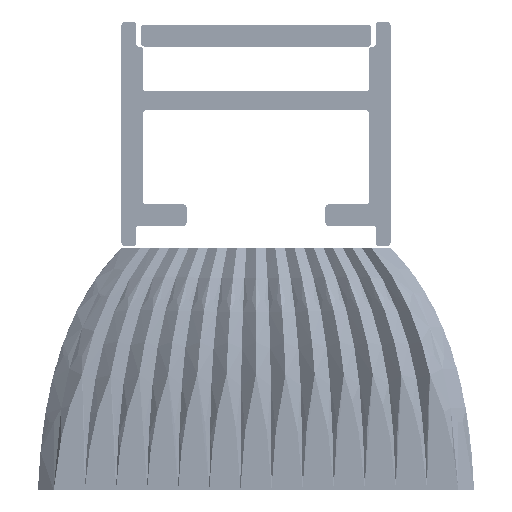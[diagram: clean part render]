
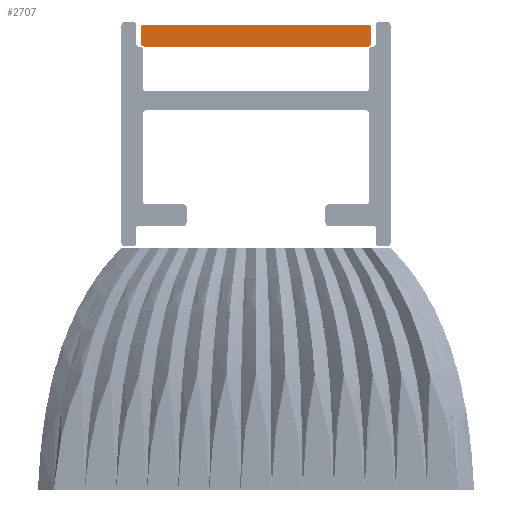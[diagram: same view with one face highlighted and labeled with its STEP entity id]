
A CAD part, front view. The second image highlights one B-rep face of the part: STEP entity #2707.
In plain terms, the highlighted planar face has unit normal (0, -1, 0).
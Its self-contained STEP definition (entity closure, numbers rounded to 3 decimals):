
#581=CIRCLE('',#14459,0.2);
#583=CIRCLE('',#14463,0.2);
#585=CIRCLE('',#14467,0.2);
#587=CIRCLE('',#14471,0.2);
#1901=FACE_OUTER_BOUND('',#5320,.T.);
#2707=ADVANCED_FACE('',(#1901),#2800,.F.);
#2800=PLANE('',#14473);
#5320=EDGE_LOOP('',(#9712,#9713,#9714,#9715,#9716,#9717,#9718,#9719));
#9712=ORIENTED_EDGE('',*,*,#13327,.F.);
#9713=ORIENTED_EDGE('',*,*,#13348,.F.);
#9714=ORIENTED_EDGE('',*,*,#13345,.F.);
#9715=ORIENTED_EDGE('',*,*,#13342,.F.);
#9716=ORIENTED_EDGE('',*,*,#13339,.F.);
#9717=ORIENTED_EDGE('',*,*,#13336,.F.);
#9718=ORIENTED_EDGE('',*,*,#13333,.F.);
#9719=ORIENTED_EDGE('',*,*,#13330,.F.);
#11132=VERTEX_POINT('',#42062);
#11133=VERTEX_POINT('',#42064);
#11135=VERTEX_POINT('',#42070);
#11137=VERTEX_POINT('',#42076);
#11139=VERTEX_POINT('',#42082);
#11141=VERTEX_POINT('',#42088);
#11143=VERTEX_POINT('',#42094);
#11145=VERTEX_POINT('',#42100);
#13327=EDGE_CURVE('',#11132,#11133,#13649,.T.);
#13330=EDGE_CURVE('',#11133,#11135,#581,.T.);
#13333=EDGE_CURVE('',#11135,#11137,#13653,.T.);
#13336=EDGE_CURVE('',#11137,#11139,#583,.T.);
#13339=EDGE_CURVE('',#11139,#11141,#13657,.T.);
#13342=EDGE_CURVE('',#11141,#11143,#585,.T.);
#13345=EDGE_CURVE('',#11143,#11145,#13661,.T.);
#13348=EDGE_CURVE('',#11145,#11132,#587,.T.);
#13649=LINE('',#42063,#13963);
#13653=LINE('',#42075,#13967);
#13657=LINE('',#42087,#13971);
#13661=LINE('',#42099,#13975);
#13963=VECTOR('',#15757,1.);
#13967=VECTOR('',#15769,1.);
#13971=VECTOR('',#15781,1.);
#13975=VECTOR('',#15793,1.);
#14459=AXIS2_PLACEMENT_3D('',#42069,#15763,#15764);
#14463=AXIS2_PLACEMENT_3D('',#42081,#15775,#15776);
#14467=AXIS2_PLACEMENT_3D('',#42093,#15787,#15788);
#14471=AXIS2_PLACEMENT_3D('',#42104,#15799,#15800);
#14473=AXIS2_PLACEMENT_3D('',#42106,#15803,#15804);
#15757=DIRECTION('',(0.,0.,1.));
#15763=DIRECTION('',(0.,1.,0.));
#15764=DIRECTION('',(0.,0.,-1.));
#15769=DIRECTION('',(1.,0.,0.));
#15775=DIRECTION('',(0.,1.,0.));
#15776=DIRECTION('',(0.,0.,-1.));
#15781=DIRECTION('',(0.,0.,-1.));
#15787=DIRECTION('',(0.,1.,0.));
#15788=DIRECTION('',(0.,0.,-1.));
#15793=DIRECTION('',(-1.,0.,0.));
#15799=DIRECTION('',(0.,1.,0.));
#15800=DIRECTION('',(0.,0.,-1.));
#15803=DIRECTION('',(0.,1.,0.));
#15804=DIRECTION('',(0.,0.,1.));
#42062=CARTESIAN_POINT('',(-7.95,-1050.,0.2));
#42063=CARTESIAN_POINT('',(-7.95,-1050.,0.2));
#42064=CARTESIAN_POINT('',(-7.95,-1050.,1.3));
#42069=CARTESIAN_POINT('',(-7.75,-1050.,1.3));
#42070=CARTESIAN_POINT('',(-7.75,-1050.,1.5));
#42075=CARTESIAN_POINT('',(-7.75,-1050.,1.5));
#42076=CARTESIAN_POINT('',(7.75,-1050.,1.5));
#42081=CARTESIAN_POINT('',(7.75,-1050.,1.3));
#42082=CARTESIAN_POINT('',(7.95,-1050.,1.3));
#42087=CARTESIAN_POINT('',(7.95,-1050.,1.3));
#42088=CARTESIAN_POINT('',(7.95,-1050.,0.2));
#42093=CARTESIAN_POINT('',(7.75,-1050.,0.2));
#42094=CARTESIAN_POINT('',(7.75,-1050.,0.));
#42099=CARTESIAN_POINT('',(7.75,-1050.,0.));
#42100=CARTESIAN_POINT('',(-7.75,-1050.,0.));
#42104=CARTESIAN_POINT('',(-7.75,-1050.,0.2));
#42106=CARTESIAN_POINT('',(-7.75,-1050.,1.3));
